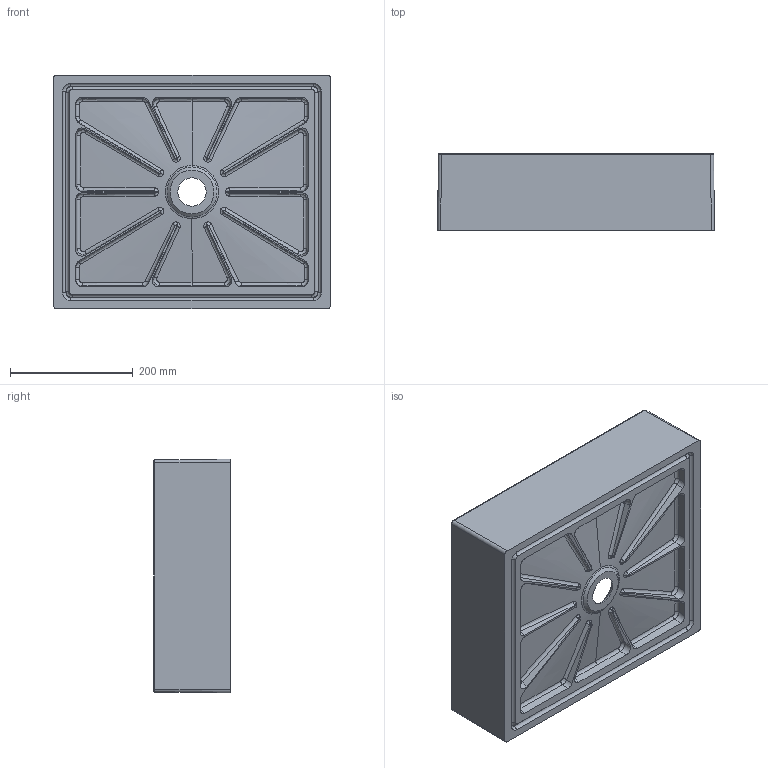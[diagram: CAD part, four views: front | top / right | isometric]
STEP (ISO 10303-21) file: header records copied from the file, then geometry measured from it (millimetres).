
FILE_DESCRIPTION (( 'STEP AP203' ), '1' );
FILE_NAME ('EQA45.STEP', '2017-03-06T17:04:29', ( '' ), ( '' ), 'SwSTEP 2.0', 'SolidWorks 2017', '' );
FILE_SCHEMA (( 'CONFIG_CONTROL_DESIGN' ));
Length unit declared in the file: millimetre
Products named in the file (1): EQA45
Bounding box: 450 x 125 x 380 mm (x, y, z)
Volume: 5783040.4 mm3; surface area: 695394.9 mm2
Topology: 1 solids, 1 shells, 263 faces, 642 edges, 384 vertices
Faces by surface type: bspline 118, cylinder 68, plane 61, torus 10, sphere 4, cone 2
Entity records: 19185 total; most frequent: CARTESIAN_POINT 13960, ORIENTED_EDGE 1274, DIRECTION 818, EDGE_CURVE 637, VERTEX_POINT 383, AXIS2_PLACEMENT_3D 315, EDGE_LOOP 272, FACE_OUTER_BOUND 265
